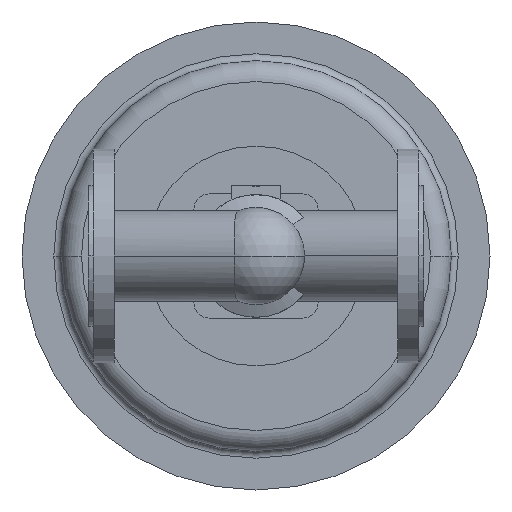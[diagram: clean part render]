
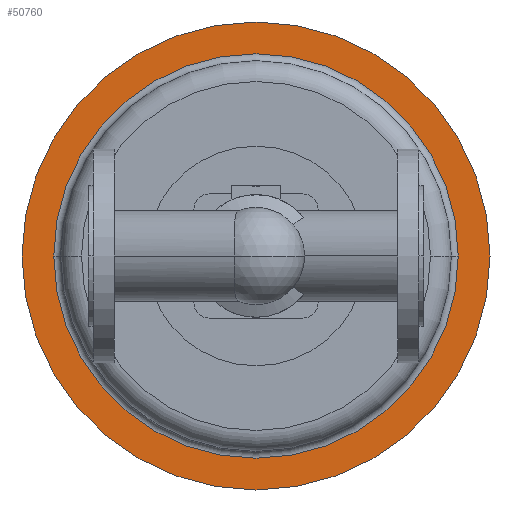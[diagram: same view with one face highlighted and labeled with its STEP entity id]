
A CAD part, front view. The second image highlights one B-rep face of the part: STEP entity #50760.
In plain terms, the highlighted planar face has unit normal (0, -1, 0).
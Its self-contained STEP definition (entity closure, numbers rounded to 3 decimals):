
#38190=CARTESIAN_POINT('',(-57.5,542.,0.));
#38200=VERTEX_POINT('',#38190);
#38360=CARTESIAN_POINT('',(347.5,542.,0.));
#38370=VERTEX_POINT('',#38360);
#38400=CARTESIAN_POINT('',(145.,542.,0.));
#38410=DIRECTION('',(0.,1.,0.));
#38420=DIRECTION('',(1.,0.,0.));
#38430=AXIS2_PLACEMENT_3D('',#38400,#38410,#38420);
#38440=CIRCLE('',#38430,202.5);
#38450=EDGE_CURVE('',#38200,#38370,#38440,.T.);
#38620=CARTESIAN_POINT('',(-30.,542.,0.));
#38630=VERTEX_POINT('',#38620);
#38660=CARTESIAN_POINT('',(145.,542.,0.));
#38670=DIRECTION('',(0.,1.,0.));
#38680=DIRECTION('',(1.,0.,0.));
#38690=AXIS2_PLACEMENT_3D('',#38660,#38670,#38680);
#38700=CIRCLE('',#38690,175.);
#38710=CARTESIAN_POINT('',(320.,542.,0.));
#38720=VERTEX_POINT('',#38710);
#38730=EDGE_CURVE('',#38630,#38720,#38700,.T.);
#50610=CARTESIAN_POINT('',(333.75,542.,0.));
#50620=DIRECTION('',(0.,-1.,0.));
#50630=DIRECTION('',(-1.,0.,0.));
#50640=AXIS2_PLACEMENT_3D('',#50610,#50620,#50630);
#50650=PLANE('',#50640);
#50660=EDGE_CURVE('',#38370,#38200,#38440,.T.);
#50670=ORIENTED_EDGE('',*,*,#50660,.F.);
#50680=ORIENTED_EDGE('',*,*,#38450,.F.);
#50690=EDGE_LOOP('',(#50680,#50670));
#50700=FACE_OUTER_BOUND('',#50690,.T.);
#50710=EDGE_CURVE('',#38720,#38630,#38700,.T.);
#50720=ORIENTED_EDGE('',*,*,#50710,.T.);
#50730=ORIENTED_EDGE('',*,*,#38730,.T.);
#50740=EDGE_LOOP('',(#50730,#50720));
#50750=FACE_BOUND('',#50740,.T.);
#50760=ADVANCED_FACE('',(#50700,#50750),#50650,.T.);
